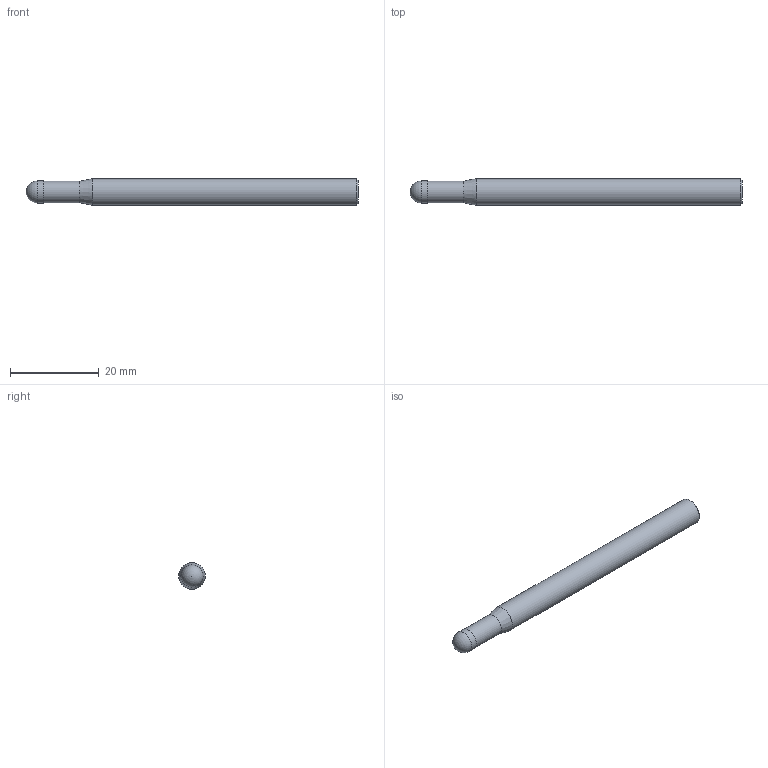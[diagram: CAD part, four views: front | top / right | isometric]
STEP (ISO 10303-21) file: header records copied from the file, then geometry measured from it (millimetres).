
FILE_DESCRIPTION(/* description */ (''),/* implementation_level */ '2;1');
FILE_NAME(/* name */ 'HSXB2050 0675.stp',/* time_stamp */ '2026-08-01T17:14:14+08:00',/* author */ (''),/* organization */ (''),/* preprocessor_version */ 'ST-DEVELOPER v16',/* originating_system */ 'SIEMENS PLM Software NX 10.0',/* authorisation */ '');
FILE_SCHEMA (('CONFIG_CONTROL_DESIGN'));
Length unit declared in the file: millimetre
Products named in the file (1): HSXB2050 0675_dxf
Bounding box: 75 x 6 x 6 mm (x, y, z)
Volume: 1975.4 mm3; surface area: 1430.8 mm2
Topology: 2 solids, 2 shells, 9 faces, 15 edges, 9 vertices
Faces by surface type: plane 3, cylinder 3, cone 2, sphere 1
Full cylindrical faces by diameter (mm): 4.85 x1, 5 x1, 6 x1
Entity records: 246 total; most frequent: DIRECTION 34, CARTESIAN_POINT 24, AXIS2_PLACEMENT_3D 17, EDGE_LOOP 14, ORIENTED_EDGE 14, FACE_BOUND 10, ADVANCED_FACE 9, PERSON_AND_ORGANIZATION 7
